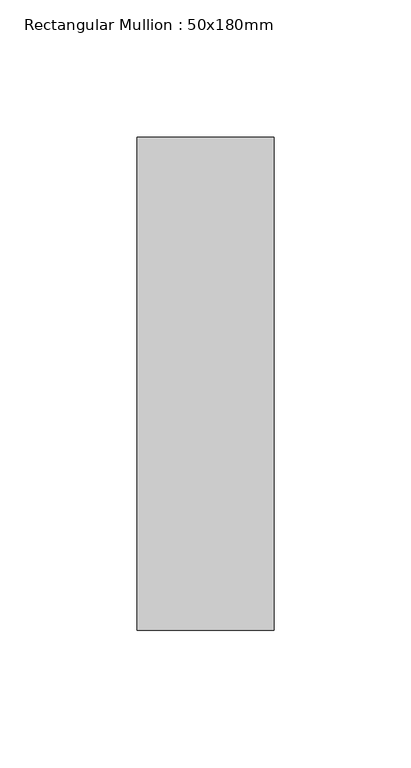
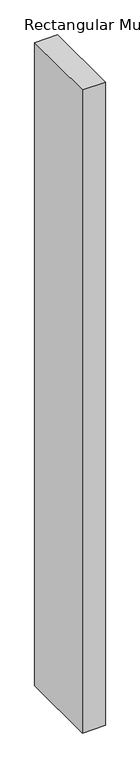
"""IFC4 building model written with IfcOpenShell, lengths in millimetres: member geometry, Rectangular Mullion : 50x180mm."""

from ifc_helpers import new_model, si_unit, frame, origin, place, context, project, spatial, polyline, outline, extrude, source, transform, mapped, element, save


def rectangular_mullion_50x180mm_43fab6d0(model_context):
    return source(origin(), model_context, "Body", "SweptSolid", [
        extrude(outline(polyline([(25.0, 90.0), (25.0, -90.0), (-25.0, -90.0), (-25.0, 90.0), (25.0, 90.0)])), frame((0.0, 0.0, -1482.8124999), z_axis=(0.0, 0.0, 1.0), x_axis=(1.0, 0.0, 0.0)), (0.0, 0.0, 1.0), 1482.8124999),
    ])


if __name__ == "__main__":
    model = new_model("IFC4")
    model_context = context("Model", 3, world=origin())
    ifc_project = project(units=[si_unit("LENGTHUNIT", "METRE", prefix="MILLI")], contexts=[model_context])
    site = spatial("IfcSite", under=ifc_project)
    building = spatial("IfcBuilding", under=site)
    placement = place(None, origin())
    rectangular_mullion_50x180mm_shape = rectangular_mullion_50x180mm_43fab6d0(model_context)
    element("IfcMember", 1, ObjectType="Rectangular Mullion : 50x180mm", at=placement, inside=building, context=model_context, shape_type="MappedRepresentation", body=[
        mapped(rectangular_mullion_50x180mm_shape, transform((0.0, 0.0, 0.0), x_axis=(1.0, 0.0, 0.0), y_axis=(0.0, 1.0, 0.0), z_axis=(0.0, 0.0, 1.0))),
    ])
    save(model, "model.ifc")
